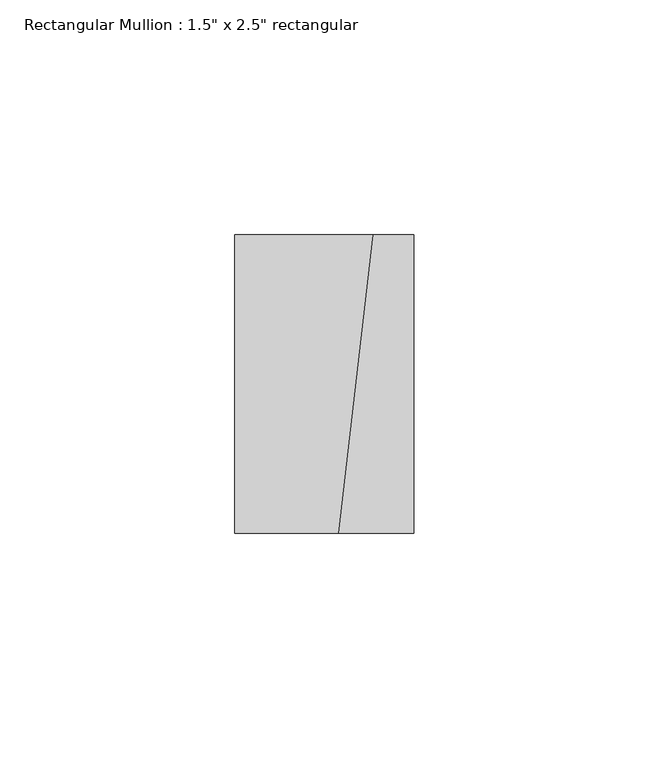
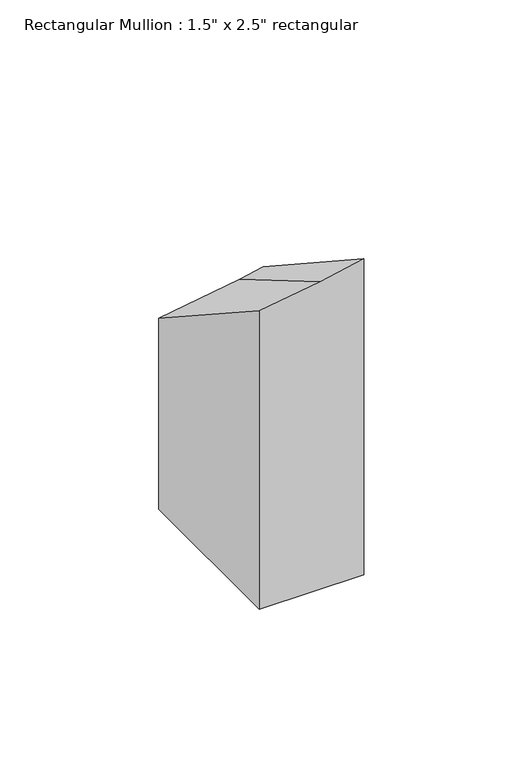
"""IFC4 building model written with IfcOpenShell, lengths in millimetres: member geometry."""

from ifc_helpers import new_model, si_unit, origin, place, context, project, spatial, faceted_brep, source, transform, mapped, element, save


def member_60dc0da7(model_context):
    return source(origin(), model_context, "Body", "Brep", [
        faceted_brep([(19.05, 31.75, -135.4229318), (19.05, -31.75, -135.4229318), (-19.05, -31.75, -135.4229318), (-19.05, 31.75, -135.4229318), (-19.05, 31.75, -61.8242361), (10.4428732, 31.75, -57.1901919), (19.05, 31.75, -55.3972819), (-19.05, -31.75, -20.5511229), (19.05, -31.75, -13.7492041), (3.116638, -31.75, -17.0682075)], [[[0, 1, 2, 3]], [[4, 5, 6, 0, 3]], [[7, 4, 3, 2]], [[8, 9, 7, 2, 1]], [[6, 8, 1, 0]], [[6, 5, 9, 8]], [[5, 4, 7, 9]]]),
    ])


if __name__ == "__main__":
    model = new_model("IFC4")
    model_context = context("Model", 3, world=origin())
    ifc_project = project(units=[si_unit("LENGTHUNIT", "METRE", prefix="MILLI")], contexts=[model_context])
    site = spatial("IfcSite", under=ifc_project)
    building = spatial("IfcBuilding", under=site)
    placement = place(None, origin())
    member_shape = member_60dc0da7(model_context)
    element("IfcMember", 1, ObjectType="Rectangular Mullion : 1.5\" x 2.5\" rectangular", at=placement, inside=building, context=model_context, shape_type="MappedRepresentation", body=[
        mapped(member_shape, transform((0.0, 0.0, 0.0), x_axis=(1.0, 0.0, 0.0), y_axis=(0.0, 1.0, 0.0), z_axis=(0.0, 0.0, 1.0))),
    ])
    save(model, "model.ifc")
